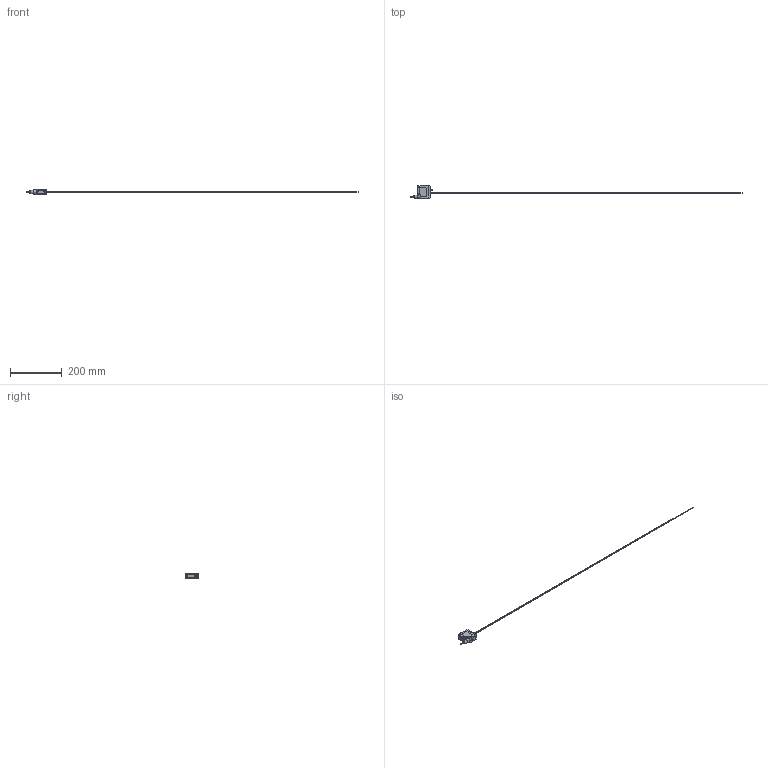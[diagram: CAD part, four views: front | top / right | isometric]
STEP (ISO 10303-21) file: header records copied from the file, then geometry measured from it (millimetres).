
FILE_DESCRIPTION(/* description */ (''),/* implementation_level */ '2;1');
FILE_NAME(/* name */ 'C:\Temp\Publisher-Output\622-21009_FT 55-RL-PS-K4.stp',/* time_stamp */ '2023-01-26T00:01:09+01:00',/* author */ ('Sandra.Stahl'),/* organization */ (''),/* preprocessor_version */ 'ST-DEVELOPER v18.1',/* originating_system */ 'Autodesk Inventor 2022',/* authorisation */ '');
FILE_SCHEMA (('AUTOMOTIVE_DESIGN { 1 0 10303 214 3 1 1 }'));
Length unit declared in the file: millimetre
Products named in the file (1): GH-ENG-0039429_Vereinfachen_1
Bounding box: 1277.85 x 51 x 23 mm (x, y, z)
Volume: 60977.2 mm3; surface area: 23189.1 mm2
Topology: 5 solids, 5 shells, 171 faces, 400 edges, 251 vertices
Faces by surface type: plane 86, cylinder 50, sphere 11, cone 10, torus 8, bspline 6
Full cylindrical faces by diameter (mm): 1 x1, 3.57 x1, 4.3 x1, 5 x3, 5.2 x1, 5.58 x1, 12.4 x1, 16 x1
Entity records: 5631 total; most frequent: CARTESIAN_POINT 1496, DIRECTION 812, ORIENTED_EDGE 788, EDGE_CURVE 394, AXIS2_PLACEMENT_3D 290, VERTEX_POINT 250, LINE 232, VECTOR 232
